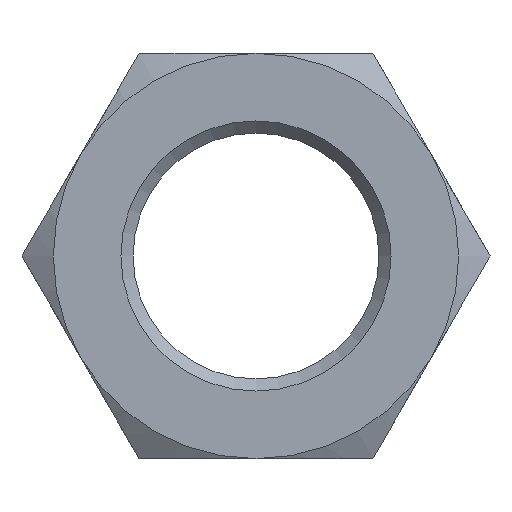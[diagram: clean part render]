
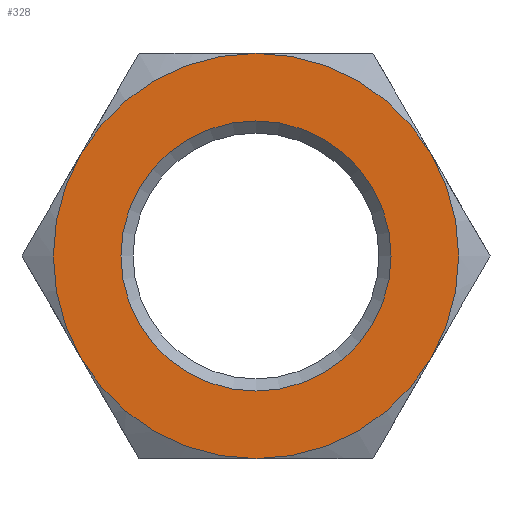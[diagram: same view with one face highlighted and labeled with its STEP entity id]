
A CAD part, left-side view. The second image highlights one B-rep face of the part: STEP entity #328.
In plain terms, the highlighted planar face has unit normal (-1, 0, 0).
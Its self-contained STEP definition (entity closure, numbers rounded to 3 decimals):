
#39=FACE_BOUND('',#76,.T.);
#41=PLANE('',#378);
#52=FACE_OUTER_BOUND('',#75,.T.);
#75=EDGE_LOOP('',(#221,#222,#223,#224,#225,#226));
#76=EDGE_LOOP('',(#227));
#116=CIRCLE('',#373,6.);
#120=CIRCLE('',#379,9.);
#121=CIRCLE('',#380,9.);
#122=CIRCLE('',#381,9.);
#123=CIRCLE('',#382,9.);
#124=CIRCLE('',#383,9.);
#125=CIRCLE('',#384,9.);
#133=VERTEX_POINT('',#505);
#137=VERTEX_POINT('',#517);
#138=VERTEX_POINT('',#518);
#139=VERTEX_POINT('',#520);
#140=VERTEX_POINT('',#522);
#141=VERTEX_POINT('',#524);
#142=VERTEX_POINT('',#526);
#162=EDGE_CURVE('',#133,#133,#116,.T.);
#168=EDGE_CURVE('',#137,#138,#120,.T.);
#169=EDGE_CURVE('',#138,#139,#121,.T.);
#170=EDGE_CURVE('',#139,#140,#122,.T.);
#171=EDGE_CURVE('',#140,#141,#123,.T.);
#172=EDGE_CURVE('',#141,#142,#124,.T.);
#173=EDGE_CURVE('',#142,#137,#125,.T.);
#221=ORIENTED_EDGE('',*,*,#168,.T.);
#222=ORIENTED_EDGE('',*,*,#169,.T.);
#223=ORIENTED_EDGE('',*,*,#170,.T.);
#224=ORIENTED_EDGE('',*,*,#171,.T.);
#225=ORIENTED_EDGE('',*,*,#172,.T.);
#226=ORIENTED_EDGE('',*,*,#173,.T.);
#227=ORIENTED_EDGE('',*,*,#162,.F.);
#328=ADVANCED_FACE('',(#52,#39),#41,.F.);
#373=AXIS2_PLACEMENT_3D('',#506,#416,#417);
#378=AXIS2_PLACEMENT_3D('',#516,#428,#429);
#379=AXIS2_PLACEMENT_3D('',#519,#430,#431);
#380=AXIS2_PLACEMENT_3D('',#521,#432,#433);
#381=AXIS2_PLACEMENT_3D('',#523,#434,#435);
#382=AXIS2_PLACEMENT_3D('',#525,#436,#437);
#383=AXIS2_PLACEMENT_3D('',#527,#438,#439);
#384=AXIS2_PLACEMENT_3D('',#528,#440,#441);
#416=DIRECTION('center_axis',(-1.,0.,0.));
#417=DIRECTION('ref_axis',(0.,0.,-1.));
#428=DIRECTION('center_axis',(1.,0.,0.));
#429=DIRECTION('ref_axis',(0.,0.,-1.));
#430=DIRECTION('center_axis',(-1.,0.,0.));
#431=DIRECTION('ref_axis',(0.,1.,0.));
#432=DIRECTION('center_axis',(-1.,0.,0.));
#433=DIRECTION('ref_axis',(0.,1.,0.));
#434=DIRECTION('center_axis',(-1.,0.,0.));
#435=DIRECTION('ref_axis',(0.,1.,0.));
#436=DIRECTION('center_axis',(-1.,0.,0.));
#437=DIRECTION('ref_axis',(0.,1.,0.));
#438=DIRECTION('center_axis',(-1.,0.,0.));
#439=DIRECTION('ref_axis',(0.,1.,0.));
#440=DIRECTION('center_axis',(-1.,0.,0.));
#441=DIRECTION('ref_axis',(0.,1.,0.));
#505=CARTESIAN_POINT('',(0.,0.,6.));
#506=CARTESIAN_POINT('Origin',(0.,0.,0.));
#516=CARTESIAN_POINT('Origin',(0.,0.,0.));
#517=CARTESIAN_POINT('',(0.,-7.794,-4.5));
#518=CARTESIAN_POINT('',(0.,-7.794,4.5));
#519=CARTESIAN_POINT('Origin',(0.,0.,0.));
#520=CARTESIAN_POINT('',(0.,0.,9.));
#521=CARTESIAN_POINT('Origin',(0.,0.,0.));
#522=CARTESIAN_POINT('',(0.,7.794,4.5));
#523=CARTESIAN_POINT('Origin',(0.,0.,0.));
#524=CARTESIAN_POINT('',(0.,7.794,-4.5));
#525=CARTESIAN_POINT('Origin',(0.,0.,0.));
#526=CARTESIAN_POINT('',(0.,0.,-9.));
#527=CARTESIAN_POINT('Origin',(0.,0.,0.));
#528=CARTESIAN_POINT('Origin',(0.,0.,0.));
